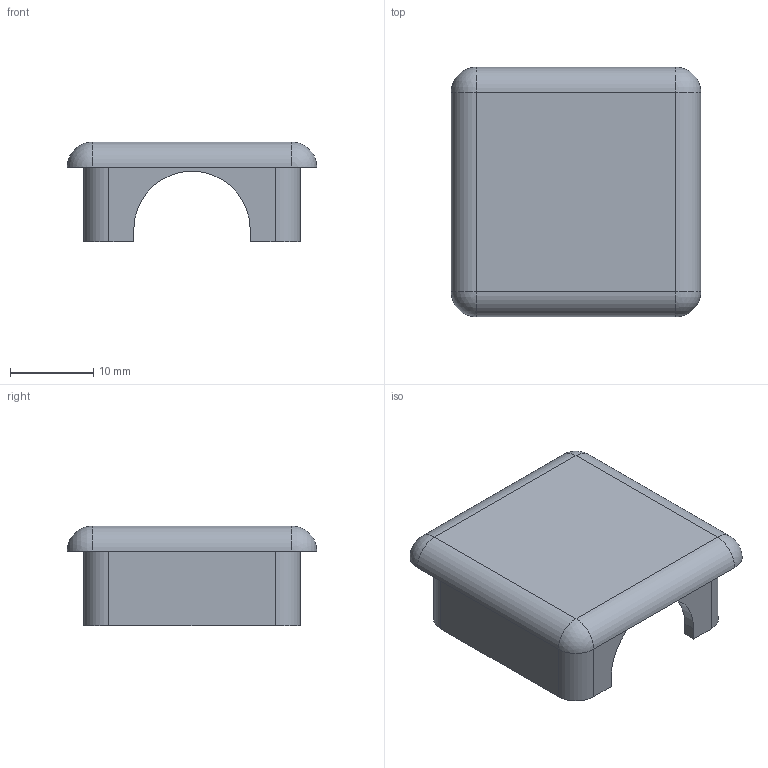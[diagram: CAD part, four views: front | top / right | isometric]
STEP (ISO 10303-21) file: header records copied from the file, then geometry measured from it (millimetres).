
FILE_DESCRIPTION (( 'STEP AP214' ), '1' );
FILE_NAME ('L21112.step', '2024-12-03T16:24:58', ( '' ), ( '' ), 'SwSTEP 2.0', 'SolidWorks 2023', '' );
FILE_SCHEMA (( 'AUTOMOTIVE_DESIGN' ));
Length unit declared in the file: millimetre
Products named in the file (1): L21112
Bounding box: 30 x 30 x 12 mm (x, y, z)
Volume: 3430.4 mm3; surface area: 3320.5 mm2
Topology: 1 solids, 1 shells, 35 faces, 96 edges, 60 vertices
Faces by surface type: plane 17, cylinder 14, sphere 4
Entity records: 1109 total; most frequent: DIRECTION 196, CARTESIAN_POINT 188, ORIENTED_EDGE 184, EDGE_CURVE 92, AXIS2_PLACEMENT_3D 68, VECTOR 60, LINE 60, VERTEX_POINT 60
